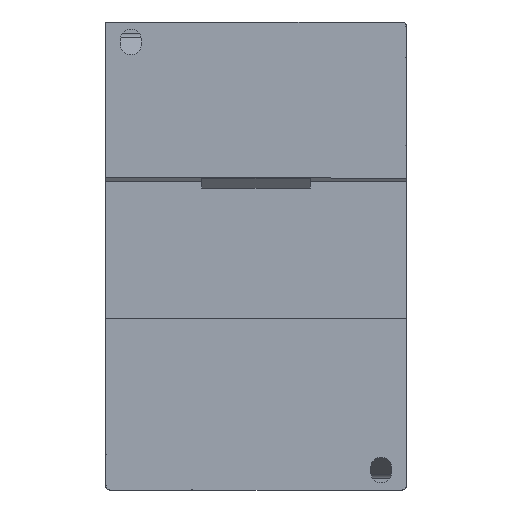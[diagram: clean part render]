
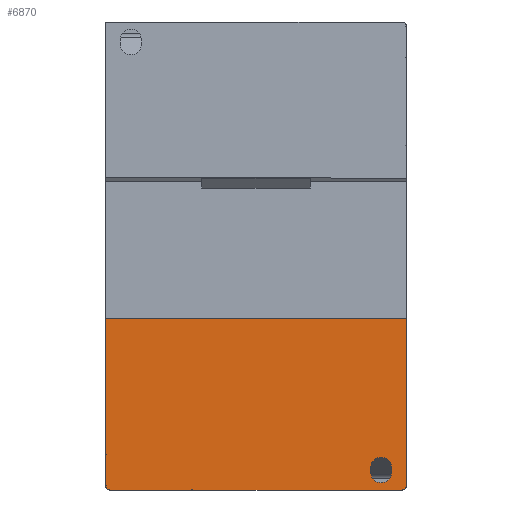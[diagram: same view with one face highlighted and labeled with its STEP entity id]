
A CAD part, front view. The second image highlights one B-rep face of the part: STEP entity #6870.
In plain terms, the highlighted planar face has unit normal (0, -1, 0).
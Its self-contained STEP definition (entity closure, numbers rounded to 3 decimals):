
#26 = VERTEX_POINT ( 'NONE', #2510 ) ;
#278 = CARTESIAN_POINT ( 'NONE',  ( 32.55, 0., -51.8 ) ) ;
#420 = CARTESIAN_POINT ( 'NONE',  ( 30., 0., -51.8 ) ) ;
#504 = ORIENTED_EDGE ( 'NONE', *, *, #5461, .T. ) ;
#764 = CARTESIAN_POINT ( 'NONE',  ( 32.55, 0., -50.8 ) ) ;
#785 = ORIENTED_EDGE ( 'NONE', *, *, #7971, .T. ) ;
#845 = DIRECTION ( 'NONE',  ( 0., 0., 1. ) ) ;
#983 = ORIENTED_EDGE ( 'NONE', *, *, #7666, .T. ) ;
#1259 = CARTESIAN_POINT ( 'NONE',  ( 35.05, 0., -55.1 ) ) ;
#1284 = EDGE_CURVE ( 'NONE', #7713, #8819, #2048, .T. ) ;
#1347 = VECTOR ( 'NONE', #6182, 1000. ) ;
#1494 = VERTEX_POINT ( 'NONE', #6850 ) ;
#1501 = DIRECTION ( 'NONE',  ( 0., 0., 1. ) ) ;
#1611 = DIRECTION ( 'NONE',  ( 0., 1., 0. ) ) ;
#1691 = DIRECTION ( 'NONE',  ( 0., -1., 0. ) ) ;
#1910 = EDGE_CURVE ( 'NONE', #26, #4303, #5531, .T. ) ;
#1987 = VERTEX_POINT ( 'NONE', #3540 ) ;
#2048 = LINE ( 'NONE', #12785, #1347 ) ;
#2136 = PLANE ( 'NONE',  #12322 ) ;
#2352 = DIRECTION ( 'NONE',  ( 0., 0., 1. ) ) ;
#2464 = CARTESIAN_POINT ( 'NONE',  ( -36.05, 0., -56.1 ) ) ;
#2488 = VECTOR ( 'NONE', #9571, 1000. ) ;
#2510 = CARTESIAN_POINT ( 'NONE',  ( 35.05, 0., -56.1 ) ) ;
#2599 = EDGE_CURVE ( 'NONE', #13802, #9265, #5325, .T. ) ;
#2792 = EDGE_CURVE ( 'NONE', #7713, #4303, #11704, .T. ) ;
#3540 = CARTESIAN_POINT ( 'NONE',  ( -35.05, 0., -56.1 ) ) ;
#3551 = DIRECTION ( 'NONE',  ( -1., 0., 0. ) ) ;
#4159 = LINE ( 'NONE', #7588, #9341 ) ;
#4303 = VERTEX_POINT ( 'NONE', #4425 ) ;
#4425 = CARTESIAN_POINT ( 'NONE',  ( 36.05, 0., -55.1 ) ) ;
#4746 = VERTEX_POINT ( 'NONE', #11146 ) ;
#5150 = CIRCLE ( 'NONE', #5833, 1. ) ;
#5325 = CIRCLE ( 'NONE', #9394, 2.55 ) ;
#5461 = EDGE_CURVE ( 'NONE', #1494, #12624, #8360, .T. ) ;
#5531 = CIRCLE ( 'NONE', #11701, 1. ) ;
#5552 = EDGE_LOOP ( 'NONE', ( #13220, #13243, #13398, #12055, #6997, #10721 ) ) ;
#5833 = AXIS2_PLACEMENT_3D ( 'NONE', #8317, #1691, #9400 ) ;
#6052 = CARTESIAN_POINT ( 'NONE',  ( 27.45, 0., -50.8 ) ) ;
#6182 = DIRECTION ( 'NONE',  ( -1., 0., 0. ) ) ;
#6850 = CARTESIAN_POINT ( 'NONE',  ( 32.55, 0., -50.8 ) ) ;
#6870 = ADVANCED_FACE ( 'NONE', ( #7983, #11257 ), #2136, .F. ) ;
#6997 = ORIENTED_EDGE ( 'NONE', *, *, #2792, .F. ) ;
#7327 = CARTESIAN_POINT ( 'NONE',  ( 36.05, 0., -56.1 ) ) ;
#7460 = DIRECTION ( 'NONE',  ( 0., 1., 0. ) ) ;
#7560 = EDGE_CURVE ( 'NONE', #4746, #8819, #11068, .T. ) ;
#7588 = CARTESIAN_POINT ( 'NONE',  ( 27.45, 0., -50.8 ) ) ;
#7617 = EDGE_CURVE ( 'NONE', #12624, #11422, #12942, .T. ) ;
#7644 = DIRECTION ( 'NONE',  ( 0., 0., 1. ) ) ;
#7666 = EDGE_CURVE ( 'NONE', #9265, #1494, #9660, .T. ) ;
#7676 = DIRECTION ( 'NONE',  ( 0., 0., 1. ) ) ;
#7713 = VERTEX_POINT ( 'NONE', #12681 ) ;
#7762 = CARTESIAN_POINT ( 'NONE',  ( -36.05, 0., -56.1 ) ) ;
#7810 = AXIS2_PLACEMENT_3D ( 'NONE', #420, #8132, #1501 ) ;
#7971 = EDGE_CURVE ( 'NONE', #11422, #13802, #4159, .T. ) ;
#7983 = FACE_BOUND ( 'NONE', #14245, .T. ) ;
#8028 = DIRECTION ( 'NONE',  ( 0., 0., 1. ) ) ;
#8128 = ORIENTED_EDGE ( 'NONE', *, *, #7617, .T. ) ;
#8132 = DIRECTION ( 'NONE',  ( 0., 1., 0. ) ) ;
#8219 = CARTESIAN_POINT ( 'NONE',  ( 30., 0., -50.8 ) ) ;
#8317 = CARTESIAN_POINT ( 'NONE',  ( -35.05, 0., -55.1 ) ) ;
#8360 = LINE ( 'NONE', #764, #2488 ) ;
#8782 = VECTOR ( 'NONE', #10657, 1000. ) ;
#8819 = VERTEX_POINT ( 'NONE', #12948 ) ;
#8961 = DIRECTION ( 'NONE',  ( 0., -1., 0. ) ) ;
#9199 = EDGE_CURVE ( 'NONE', #4746, #1987, #5150, .T. ) ;
#9265 = VERTEX_POINT ( 'NONE', #13871 ) ;
#9314 = DIRECTION ( 'NONE',  ( 0., 0., 1. ) ) ;
#9341 = VECTOR ( 'NONE', #7644, 1000. ) ;
#9394 = AXIS2_PLACEMENT_3D ( 'NONE', #14046, #7460, #845 ) ;
#9400 = DIRECTION ( 'NONE',  ( 0., 0., 1. ) ) ;
#9571 = DIRECTION ( 'NONE',  ( 0., 0., -1. ) ) ;
#9660 = CIRCLE ( 'NONE', #11479, 2.55 ) ;
#10121 = LINE ( 'NONE', #2464, #12705 ) ;
#10420 = EDGE_CURVE ( 'NONE', #26, #1987, #10121, .T. ) ;
#10657 = DIRECTION ( 'NONE',  ( 0., 0., -1. ) ) ;
#10713 = VECTOR ( 'NONE', #8028, 1000. ) ;
#10721 = ORIENTED_EDGE ( 'NONE', *, *, #1284, .T. ) ;
#11068 = LINE ( 'NONE', #7762, #10713 ) ;
#11146 = CARTESIAN_POINT ( 'NONE',  ( -36.05, 0., -55.1 ) ) ;
#11257 = FACE_OUTER_BOUND ( 'NONE', #5552, .T. ) ;
#11422 = VERTEX_POINT ( 'NONE', #12990 ) ;
#11479 = AXIS2_PLACEMENT_3D ( 'NONE', #8219, #1611, #9314 ) ;
#11701 = AXIS2_PLACEMENT_3D ( 'NONE', #1259, #8961, #2352 ) ;
#11704 = LINE ( 'NONE', #7327, #8782 ) ;
#12055 = ORIENTED_EDGE ( 'NONE', *, *, #1910, .T. ) ;
#12064 = CARTESIAN_POINT ( 'NONE',  ( 0., 0., 0. ) ) ;
#12322 = AXIS2_PLACEMENT_3D ( 'NONE', #12064, #14266, #7676 ) ;
#12624 = VERTEX_POINT ( 'NONE', #278 ) ;
#12681 = CARTESIAN_POINT ( 'NONE',  ( 36.05, 0., -15. ) ) ;
#12705 = VECTOR ( 'NONE', #3551, 1000. ) ;
#12785 = CARTESIAN_POINT ( 'NONE',  ( 36.05, 0., -15. ) ) ;
#12942 = CIRCLE ( 'NONE', #7810, 2.55 ) ;
#12948 = CARTESIAN_POINT ( 'NONE',  ( -36.05, 0., -15. ) ) ;
#12990 = CARTESIAN_POINT ( 'NONE',  ( 27.45, 0., -51.8 ) ) ;
#13220 = ORIENTED_EDGE ( 'NONE', *, *, #7560, .F. ) ;
#13243 = ORIENTED_EDGE ( 'NONE', *, *, #9199, .T. ) ;
#13398 = ORIENTED_EDGE ( 'NONE', *, *, #10420, .F. ) ;
#13802 = VERTEX_POINT ( 'NONE', #6052 ) ;
#13871 = CARTESIAN_POINT ( 'NONE',  ( 30., 0., -48.25 ) ) ;
#14046 = CARTESIAN_POINT ( 'NONE',  ( 30., 0., -50.8 ) ) ;
#14176 = ORIENTED_EDGE ( 'NONE', *, *, #2599, .T. ) ;
#14245 = EDGE_LOOP ( 'NONE', ( #785, #14176, #983, #504, #8128 ) ) ;
#14266 = DIRECTION ( 'NONE',  ( 0., 1., 0. ) ) ;
